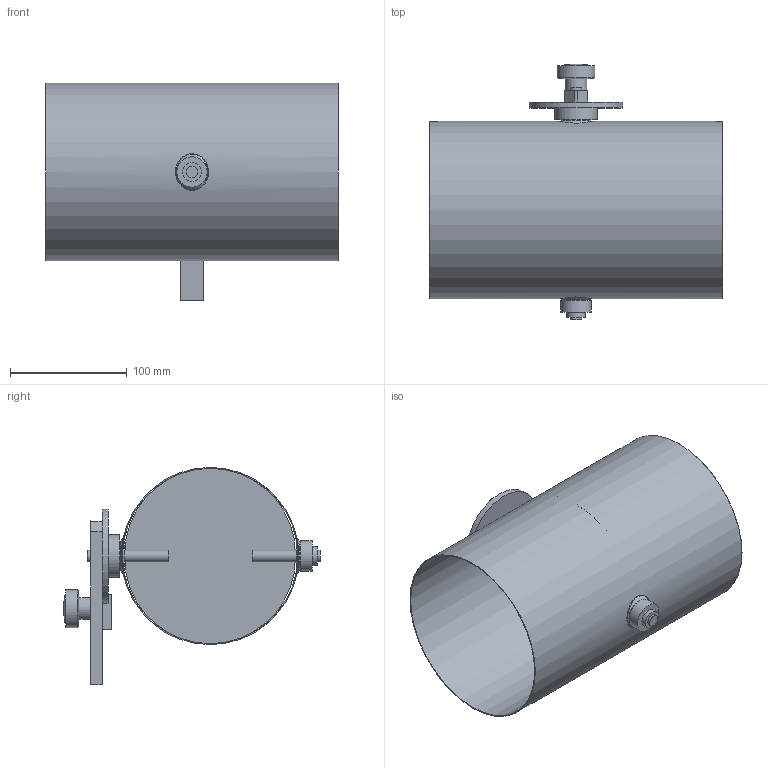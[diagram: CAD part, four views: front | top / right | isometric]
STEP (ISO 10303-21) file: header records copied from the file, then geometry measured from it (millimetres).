
FILE_DESCRIPTION(/* description */ (''),/* implementation_level */ '2;1');
FILE_NAME(/* name */ 'METU_Drosselklappe_glatt_verzinkt_AA124-80B__150_L250_handbetaetigt.stp',/* time_stamp */ '2022-04-22T14:23:50+02:00',/* author */ (''),/* organization */ (''),/* preprocessor_version */ 'ST-DEVELOPER v11',/* originating_system */ 'SIEMENS UGS NX 6.0',/* authorisation */ '');
FILE_SCHEMA (('CONFIG_CONTROL_DESIGN'));
Length unit declared in the file: millimetre
Products named in the file (1): d.ga332Aq8zo
Bounding box: 250 x 218.97 x 185.8 mm (x, y, z)
Volume: 206570.8 mm3; surface area: 312079 mm2
Topology: 12 solids, 12 shells, 90 faces, 185 edges, 128 vertices
Faces by surface type: plane 44, cylinder 32, cone 4, bspline 4, torus 4, sphere 2
Full cylindrical faces by diameter (mm): 4.2 x1, 4.4 x4, 5 x1, 6 x1, 10 x5, 15 x3, 15.85 x2, 16 x2, 18.5 x1, 24 x2, 25 x1, 26 x1, 32.5 x1, 36 x1, 80 x1, 150 x1, 151.6 x1
Entity records: 2698 total; most frequent: CARTESIAN_POINT 915, DIRECTION 360, ORIENTED_EDGE 244, EDGE_LOOP 170, AXIS2_PLACEMENT_3D 159, FACE_BOUND 148, EDGE_CURVE 122, VERTEX_POINT 106
